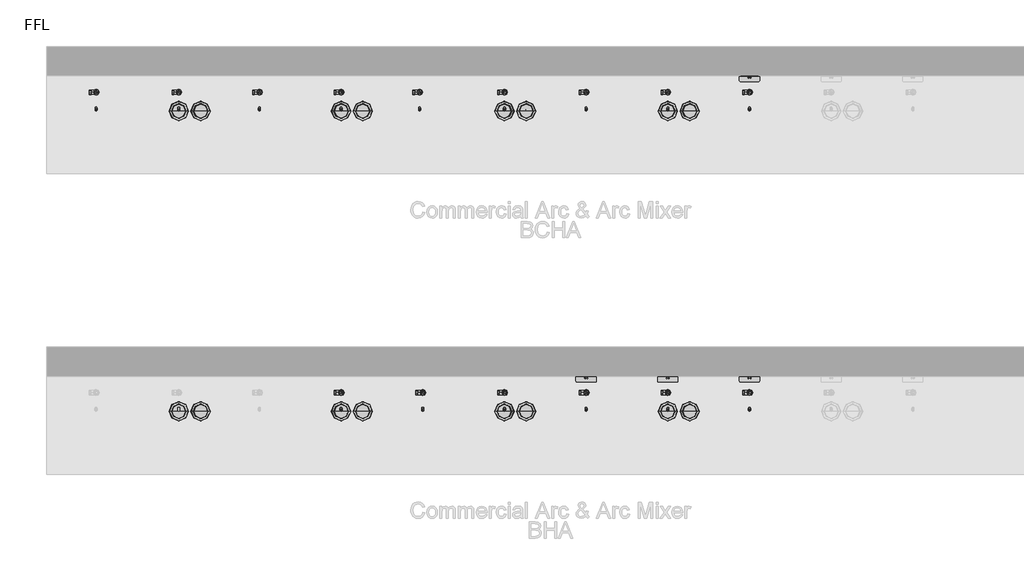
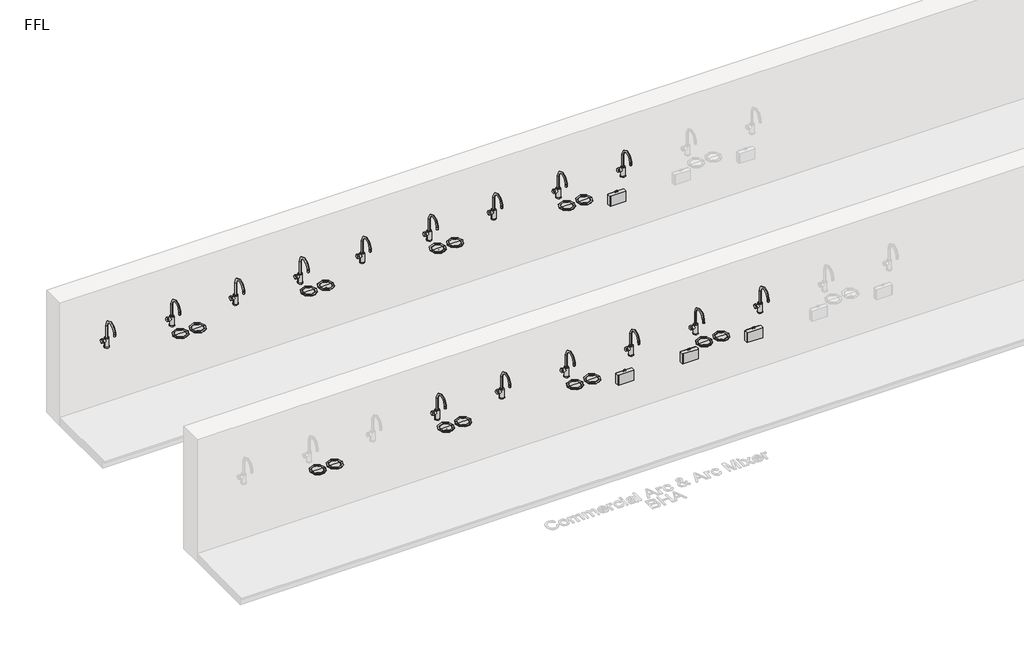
# One storey, part 4 of 10: 35 flow terminals.
"""IFC4 building model written with IfcOpenShell, lengths in millimetres."""

from ifc_helpers import new_model, si_unit, origin, place, context, project, spatial, transform, mapped, element, save
from components import flow_terminal_1fd3c137, bright_chrome_dafbc2dd, brushed_chrome_743c02cf

model = new_model("IFC4")

# Units and contexts
model_context = context("Model", 3, world=origin())
ifc_project = project(units=[si_unit("LENGTHUNIT", "METRE", prefix="MILLI")], contexts=[model_context])

# Site, building, storey
site = spatial("IfcSite", under=ifc_project)
building = spatial("IfcBuilding", under=site)
storey = spatial("IfcBuildingStorey", under=building, Name="FFL", Elevation=0.0)

# Flow terminals
placement = place(None, origin())
flow_terminal_shape = flow_terminal_1fd3c137(model_context)
element("IfcFlowTerminal", 1, ObjectType="z_PlumFixt_Zenith_Booster : Booster", at=placement, inside=storey, context=model_context, shape_type="MappedRepresentation", body=[
    mapped(flow_terminal_shape, transform((-2016.7352929, 5140.2393304, 498.0), x_axis=(1.0, 0.0, 0.0), y_axis=(0.0, 1.0, 0.0), z_axis=(0.0, 0.0, 1.0))),
])
element("IfcFlowTerminal", 2, ObjectType="z_PlumFixt_Zenith_Booster : Booster", at=placement, inside=storey, context=model_context, shape_type="MappedRepresentation", body=[
    mapped(flow_terminal_shape, transform((-516.7352929, 7900.2393304, 498.0), x_axis=(1.0, 0.0, 0.0), y_axis=(0.0, 1.0, 0.0), z_axis=(0.0, 0.0, 1.0))),
])
element("IfcFlowTerminal", 3, ObjectType="z_PlumFixt_Zenith_Booster : Booster", at=placement, inside=storey, context=model_context, shape_type="MappedRepresentation", body=[
    mapped(flow_terminal_shape, transform((-1266.7352929, 5140.2393304, 498.0), x_axis=(1.0, 0.0, 0.0), y_axis=(0.0, 1.0, 0.0), z_axis=(0.0, 0.0, 1.0))),
])
element("IfcFlowTerminal", 4, ObjectType="z_PlumFixt_Zenith_Booster : Booster", at=placement, inside=storey, context=model_context, shape_type="MappedRepresentation", body=[
    mapped(flow_terminal_shape, transform((-516.7352929, 5140.2393304, 498.0), x_axis=(1.0, 0.0, 0.0), y_axis=(0.0, 1.0, 0.0), z_axis=(0.0, 0.0, 1.0))),
])
bright_chrome_shape = bright_chrome_dafbc2dd(model_context)
element("IfcFlowTerminal", 5, ObjectType="z_PlumFixt_Zenith_Arc : Bright Chrome", at=placement, inside=storey, context=model_context, shape_type="MappedRepresentation", body=[
    mapped(bright_chrome_shape, transform((-6531.7352929, 7610.7393304, 900.0), x_axis=(1.0, 0.0, 0.0), y_axis=(0.0, 1.0, 0.0), z_axis=(0.0, 0.0, 1.0))),
])
brushed_chrome_shape = brushed_chrome_743c02cf(model_context)
element("IfcFlowTerminal", 6, ObjectType="z_PlumFixt_Zenith_Font : Brushed Chrome", at=placement, inside=storey, context=model_context, shape_type="MappedRepresentation", body=[
    mapped(brushed_chrome_shape, transform((-5756.7352929, 4751.2393304, 900.0), x_axis=(1.0, 0.0, 0.0), y_axis=(0.0, 1.0, 0.0), z_axis=(0.0, 0.0, 1.0))),
])
element("IfcFlowTerminal", 7, ObjectType="z_PlumFixt_Zenith_Font : Brushed Chrome", at=placement, inside=storey, context=model_context, shape_type="MappedRepresentation", body=[
    mapped(brushed_chrome_shape, transform((-5556.7352929, 4751.2393304, 900.0), x_axis=(1.0, 0.0, 0.0), y_axis=(0.0, 1.0, 0.0), z_axis=(0.0, 0.0, 1.0))),
])
element("IfcFlowTerminal", 8, ObjectType="z_PlumFixt_Zenith_Font : Brushed Chrome", at=placement, inside=storey, context=model_context, shape_type="MappedRepresentation", body=[
    mapped(brushed_chrome_shape, transform((-5756.7352929, 7511.2393304, 900.0), x_axis=(1.0, 0.0, 0.0), y_axis=(0.0, 1.0, 0.0), z_axis=(0.0, 0.0, 1.0))),
])
element("IfcFlowTerminal", 9, ObjectType="z_PlumFixt_Zenith_Font : Brushed Chrome", at=placement, inside=storey, context=model_context, shape_type="MappedRepresentation", body=[
    mapped(brushed_chrome_shape, transform((-5556.7352929, 7511.2393304, 900.0), x_axis=(1.0, 0.0, 0.0), y_axis=(0.0, 1.0, 0.0), z_axis=(0.0, 0.0, 1.0))),
])
element("IfcFlowTerminal", 10, ObjectType="z_PlumFixt_Zenith_Arc : Brushed Chrome", at=placement, inside=storey, context=model_context, shape_type="MappedRepresentation", body=[
    mapped(bright_chrome_shape, transform((-5773.7352929, 7610.7393304, 900.0), x_axis=(1.0, 0.0, 0.0), y_axis=(0.0, 1.0, 0.0), z_axis=(0.0, 0.0, 1.0))),
])
element("IfcFlowTerminal", 11, ObjectType="z_PlumFixt_Zenith_Arc : Brushed Gold", at=placement, inside=storey, context=model_context, shape_type="MappedRepresentation", body=[
    mapped(bright_chrome_shape, transform((-5033.7352929, 7610.7393304, 900.0), x_axis=(1.0, 0.0, 0.0), y_axis=(0.0, 1.0, 0.0), z_axis=(0.0, 0.0, 1.0))),
])
element("IfcFlowTerminal", 12, ObjectType="z_PlumFixt_Zenith_Font : Brushed Nickel", at=placement, inside=storey, context=model_context, shape_type="MappedRepresentation", body=[
    mapped(brushed_chrome_shape, transform((-4266.7352929, 7511.2393304, 900.0), x_axis=(1.0, 0.0, 0.0), y_axis=(0.0, 1.0, 0.0), z_axis=(0.0, 0.0, 1.0))),
])
element("IfcFlowTerminal", 13, ObjectType="z_PlumFixt_Zenith_Font : Brushed Nickel", at=placement, inside=storey, context=model_context, shape_type="MappedRepresentation", body=[
    mapped(brushed_chrome_shape, transform((-4066.7352929, 7511.2393304, 900.0), x_axis=(1.0, 0.0, 0.0), y_axis=(0.0, 1.0, 0.0), z_axis=(0.0, 0.0, 1.0))),
])
element("IfcFlowTerminal", 14, ObjectType="z_PlumFixt_Zenith_Font : Brushed Nickel", at=placement, inside=storey, context=model_context, shape_type="MappedRepresentation", body=[
    mapped(brushed_chrome_shape, transform((-4266.7352929, 4751.2393304, 900.0), x_axis=(1.0, 0.0, 0.0), y_axis=(0.0, 1.0, 0.0), z_axis=(0.0, 0.0, 1.0))),
])
element("IfcFlowTerminal", 15, ObjectType="z_PlumFixt_Zenith_Font : Brushed Nickel", at=placement, inside=storey, context=model_context, shape_type="MappedRepresentation", body=[
    mapped(brushed_chrome_shape, transform((-4066.7352929, 4751.2393304, 900.0), x_axis=(1.0, 0.0, 0.0), y_axis=(0.0, 1.0, 0.0), z_axis=(0.0, 0.0, 1.0))),
])
element("IfcFlowTerminal", 16, ObjectType="z_PlumFixt_Zenith_Arc : Brushed Nickel", at=placement, inside=storey, context=model_context, shape_type="MappedRepresentation", body=[
    mapped(bright_chrome_shape, transform((-4283.7352929, 7610.7393304, 900.0), x_axis=(1.0, 0.0, 0.0), y_axis=(0.0, 1.0, 0.0), z_axis=(0.0, 0.0, 1.0))),
])
element("IfcFlowTerminal", 17, ObjectType="z_PlumFixt_Zenith_Arc : Brushed Nickel", at=placement, inside=storey, context=model_context, shape_type="MappedRepresentation", body=[
    mapped(bright_chrome_shape, transform((-4283.7352929, 4850.7393304, 900.0), x_axis=(1.0, 0.0, 0.0), y_axis=(0.0, 1.0, 0.0), z_axis=(0.0, 0.0, 1.0))),
])
element("IfcFlowTerminal", 18, ObjectType="z_PlumFixt_Zenith_Arc : Brushed Rose Gold", at=placement, inside=storey, context=model_context, shape_type="MappedRepresentation", body=[
    mapped(bright_chrome_shape, transform((-3561.7352929, 7610.7393304, 900.0), x_axis=(1.0, 0.0, 0.0), y_axis=(0.0, 1.0, 0.0), z_axis=(0.0, 0.0, 1.0))),
])
element("IfcFlowTerminal", 19, ObjectType="z_PlumFixt_Zenith_Arc : Brushed Rose Gold", at=placement, inside=storey, context=model_context, shape_type="MappedRepresentation", body=[
    mapped(bright_chrome_shape, transform((-3533.7352929, 4850.7393304, 900.0), x_axis=(1.0, 0.0, 0.0), y_axis=(0.0, 1.0, 0.0), z_axis=(0.0, 0.0, 1.0))),
])
element("IfcFlowTerminal", 20, ObjectType="z_PlumFixt_Zenith_Font : Gloss Black", at=placement, inside=storey, context=model_context, shape_type="MappedRepresentation", body=[
    mapped(brushed_chrome_shape, transform((-2766.7352929, 7511.2393304, 900.0), x_axis=(1.0, 0.0, 0.0), y_axis=(0.0, 1.0, 0.0), z_axis=(0.0, 0.0, 1.0))),
])
element("IfcFlowTerminal", 21, ObjectType="z_PlumFixt_Zenith_Font : Gloss Black", at=placement, inside=storey, context=model_context, shape_type="MappedRepresentation", body=[
    mapped(brushed_chrome_shape, transform((-2566.7352929, 7511.2393304, 900.0), x_axis=(1.0, 0.0, 0.0), y_axis=(0.0, 1.0, 0.0), z_axis=(0.0, 0.0, 1.0))),
])
element("IfcFlowTerminal", 22, ObjectType="z_PlumFixt_Zenith_Font : Gloss Black", at=placement, inside=storey, context=model_context, shape_type="MappedRepresentation", body=[
    mapped(brushed_chrome_shape, transform((-2766.7352929, 4751.2393304, 900.0), x_axis=(1.0, 0.0, 0.0), y_axis=(0.0, 1.0, 0.0), z_axis=(0.0, 0.0, 1.0))),
])
element("IfcFlowTerminal", 23, ObjectType="z_PlumFixt_Zenith_Font : Gloss Black", at=placement, inside=storey, context=model_context, shape_type="MappedRepresentation", body=[
    mapped(brushed_chrome_shape, transform((-2566.7352929, 4751.2393304, 900.0), x_axis=(1.0, 0.0, 0.0), y_axis=(0.0, 1.0, 0.0), z_axis=(0.0, 0.0, 1.0))),
])
element("IfcFlowTerminal", 24, ObjectType="z_PlumFixt_Zenith_Arc : Gloss Black", at=placement, inside=storey, context=model_context, shape_type="MappedRepresentation", body=[
    mapped(bright_chrome_shape, transform((-2783.7352929, 4850.7393304, 900.0), x_axis=(1.0, 0.0, 0.0), y_axis=(0.0, 1.0, 0.0), z_axis=(0.0, 0.0, 1.0))),
])
element("IfcFlowTerminal", 25, ObjectType="z_PlumFixt_Zenith_Arc : Gloss Black", at=placement, inside=storey, context=model_context, shape_type="MappedRepresentation", body=[
    mapped(bright_chrome_shape, transform((-2783.7352929, 7610.7393304, 900.0), x_axis=(1.0, 0.0, 0.0), y_axis=(0.0, 1.0, 0.0), z_axis=(0.0, 0.0, 1.0))),
])
element("IfcFlowTerminal", 26, ObjectType="z_PlumFixt_Zenith_Arc : Gold", at=placement, inside=storey, context=model_context, shape_type="MappedRepresentation", body=[
    mapped(bright_chrome_shape, transform((-2033.7352929, 4850.7393304, 900.0), x_axis=(1.0, 0.0, 0.0), y_axis=(0.0, 1.0, 0.0), z_axis=(0.0, 0.0, 1.0))),
])
element("IfcFlowTerminal", 27, ObjectType="z_PlumFixt_Zenith_Arc : Gold", at=placement, inside=storey, context=model_context, shape_type="MappedRepresentation", body=[
    mapped(bright_chrome_shape, transform((-2033.7352929, 7610.7393304, 900.0), x_axis=(1.0, 0.0, 0.0), y_axis=(0.0, 1.0, 0.0), z_axis=(0.0, 0.0, 1.0))),
])
element("IfcFlowTerminal", 28, ObjectType="z_PlumFixt_Zenith_Font : Gunmetal", at=placement, inside=storey, context=model_context, shape_type="MappedRepresentation", body=[
    mapped(brushed_chrome_shape, transform((-1266.7352929, 7511.2393304, 900.0), x_axis=(1.0, 0.0, 0.0), y_axis=(0.0, 1.0, 0.0), z_axis=(0.0, 0.0, 1.0))),
])
element("IfcFlowTerminal", 29, ObjectType="z_PlumFixt_Zenith_Font : Gunmetal", at=placement, inside=storey, context=model_context, shape_type="MappedRepresentation", body=[
    mapped(brushed_chrome_shape, transform((-1066.7352929, 7511.2393304, 900.0), x_axis=(1.0, 0.0, 0.0), y_axis=(0.0, 1.0, 0.0), z_axis=(0.0, 0.0, 1.0))),
])
element("IfcFlowTerminal", 30, ObjectType="z_PlumFixt_Zenith_Font : Gunmetal", at=placement, inside=storey, context=model_context, shape_type="MappedRepresentation", body=[
    mapped(brushed_chrome_shape, transform((-1266.7352929, 4751.2393304, 900.0), x_axis=(1.0, 0.0, 0.0), y_axis=(0.0, 1.0, 0.0), z_axis=(0.0, 0.0, 1.0))),
])
element("IfcFlowTerminal", 31, ObjectType="z_PlumFixt_Zenith_Font : Gunmetal", at=placement, inside=storey, context=model_context, shape_type="MappedRepresentation", body=[
    mapped(brushed_chrome_shape, transform((-1066.7352929, 4751.2393304, 900.0), x_axis=(1.0, 0.0, 0.0), y_axis=(0.0, 1.0, 0.0), z_axis=(0.0, 0.0, 1.0))),
])
element("IfcFlowTerminal", 32, ObjectType="z_PlumFixt_Zenith_Arc : Gunmetal", at=placement, inside=storey, context=model_context, shape_type="MappedRepresentation", body=[
    mapped(bright_chrome_shape, transform((-1283.7352929, 7610.7393304, 900.0), x_axis=(1.0, 0.0, 0.0), y_axis=(0.0, 1.0, 0.0), z_axis=(0.0, 0.0, 1.0))),
])
element("IfcFlowTerminal", 33, ObjectType="z_PlumFixt_Zenith_Arc : Gunmetal", at=placement, inside=storey, context=model_context, shape_type="MappedRepresentation", body=[
    mapped(bright_chrome_shape, transform((-1283.7352929, 4850.7393304, 900.0), x_axis=(1.0, 0.0, 0.0), y_axis=(0.0, 1.0, 0.0), z_axis=(0.0, 0.0, 1.0))),
])
element("IfcFlowTerminal", 34, ObjectType="z_PlumFixt_Zenith_Arc : Matte Black", at=placement, inside=storey, context=model_context, shape_type="MappedRepresentation", body=[
    mapped(bright_chrome_shape, transform((-533.7352929, 7610.7393304, 900.0), x_axis=(1.0, 0.0, 0.0), y_axis=(0.0, 1.0, 0.0), z_axis=(0.0, 0.0, 1.0))),
])
element("IfcFlowTerminal", 35, ObjectType="z_PlumFixt_Zenith_Arc : Matte Black", at=placement, inside=storey, context=model_context, shape_type="MappedRepresentation", body=[
    mapped(bright_chrome_shape, transform((-533.7352929, 4850.7393304, 900.0), x_axis=(1.0, 0.0, 0.0), y_axis=(0.0, 1.0, 0.0), z_axis=(0.0, 0.0, 1.0))),
])

save(model, "model.ifc")
